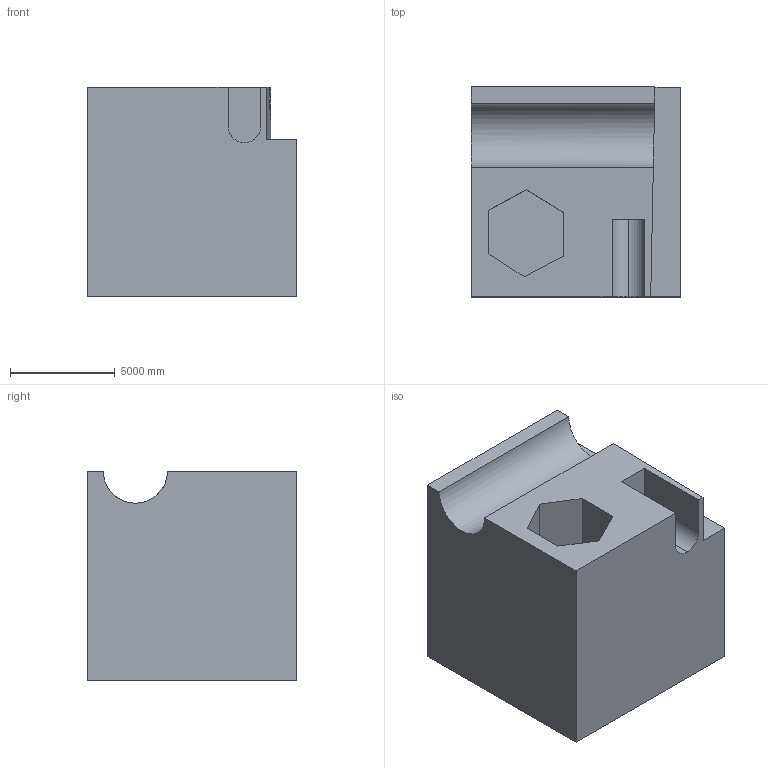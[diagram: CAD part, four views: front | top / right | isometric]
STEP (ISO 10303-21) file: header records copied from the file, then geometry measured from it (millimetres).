
FILE_DESCRIPTION (( 'STEP AP203' ), '1' );
FILE_NAME ('134.STEP', '2022-09-06T13:21:37', ( 'user' ), ( '' ), 'SwSTEP 2.0', 'SolidWorks 2021', '' );
FILE_SCHEMA (( 'CONFIG_CONTROL_DESIGN' ));
Length unit declared in the file: centimetre
Products named in the file (1): 134
Bounding box: 10000 x 10000 x 10000 mm (x, y, z)
Volume: 850044585421.6 mm3; surface area: 696050938.6 mm2
Topology: 1 solids, 1 shells, 22 faces, 57 edges, 38 vertices
Faces by surface type: plane 19, cylinder 3
Entity records: 743 total; most frequent: CARTESIAN_POINT 121, ORIENTED_EDGE 114, DIRECTION 107, EDGE_CURVE 57, VECTOR 51, LINE 51, VERTEX_POINT 38, AXIS2_PLACEMENT_3D 28
